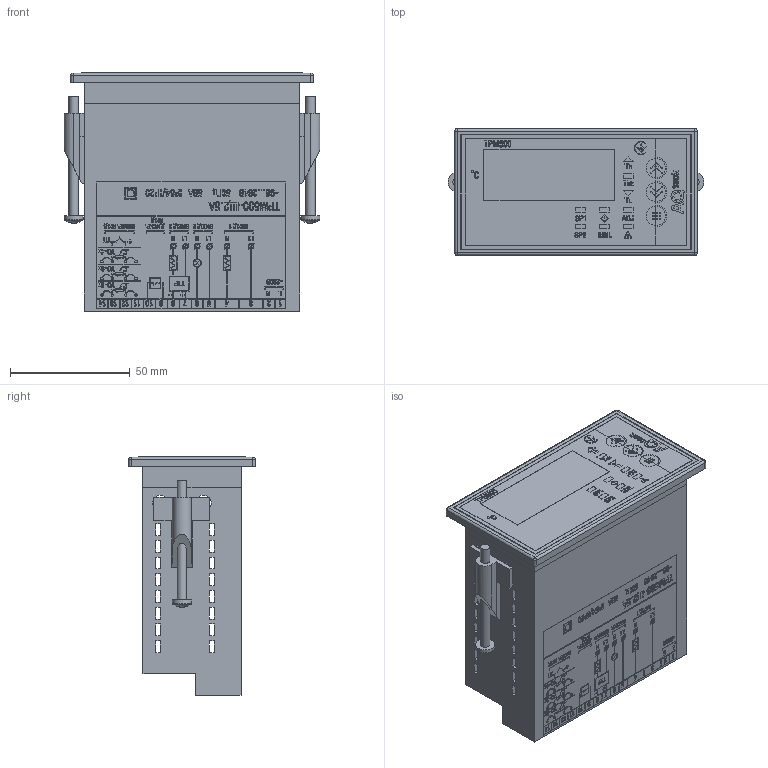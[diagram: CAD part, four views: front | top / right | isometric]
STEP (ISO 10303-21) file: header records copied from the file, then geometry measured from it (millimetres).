
FILE_DESCRIPTION (( 'STEP AP214' ), '1' );
FILE_NAME ('ﾒﾐﾌ500-ﾙ2.5ﾀ [U00].STEP', '2025-02-24T09:16:20', ( '' ), ( '' ), 'SwSTEP 2.0', 'SolidWorks 2019', '' );
FILE_SCHEMA (( 'AUTOMOTIVE_DESIGN' ));
Length unit declared in the file: millimetre
Products named in the file (9): 2EDGKR-5.08-1p; óù³ëüíþâà÷ (Ù2); Êð³ïëåííÿ ï³ä âèíò Ì4; M4 x 0.7 x 40 Type I Cross Recessed PHMS; Êîðïóñ ÒÐÌ500-Ù2; AQ_TRM500_002F03M; BoardsPCBﾒﾐﾌ500_ﾙ2; ﾒﾐﾌ500-ﾙ2.5ﾀ [U00]; 2EDGKR-5.08-16
Assembly tree (23 placements, depth 3):
  ﾒﾐﾌ500-ﾙ2.5ﾀ [U00]
    2EDGKR-5.08-16
      2EDGKR-5.08-1p  x14
    óù³ëüíþâà÷ (Ù2)
    Êîðïóñ ÒÐÌ500-Ù2
    Êð³ïëåííÿ ï³ä âèíò Ì4  x2
    M4 x 0.7 x 40 Type I Cross Recessed PHMS  x2
    AQ_TRM500_002F03M
    BoardsPCBﾒﾐﾌ500_ﾙ2
Bounding box: 107 x 53 x 99.63 mm (x, y, z)
Volume: 92981 mm3; surface area: 126969.3 mm2
Topology: 256 solids, 256 shells, 4800 faces, 12687 edges, 8414 vertices
Faces by surface type: plane 3493, bspline 1007, cylinder 292, sphere 6, torus 2
Full cylindrical faces by diameter (mm): 4 x2, 8 x5
Entity records: 172340 total; most frequent: CARTESIAN_POINT 36146, ORIENTED_EDGE 22090, DIRECTION 15684, EDGE_CURVE 11045, LINE 8710, VECTOR 8710, VERTEX_POINT 7357, EDGE_LOOP 4674
